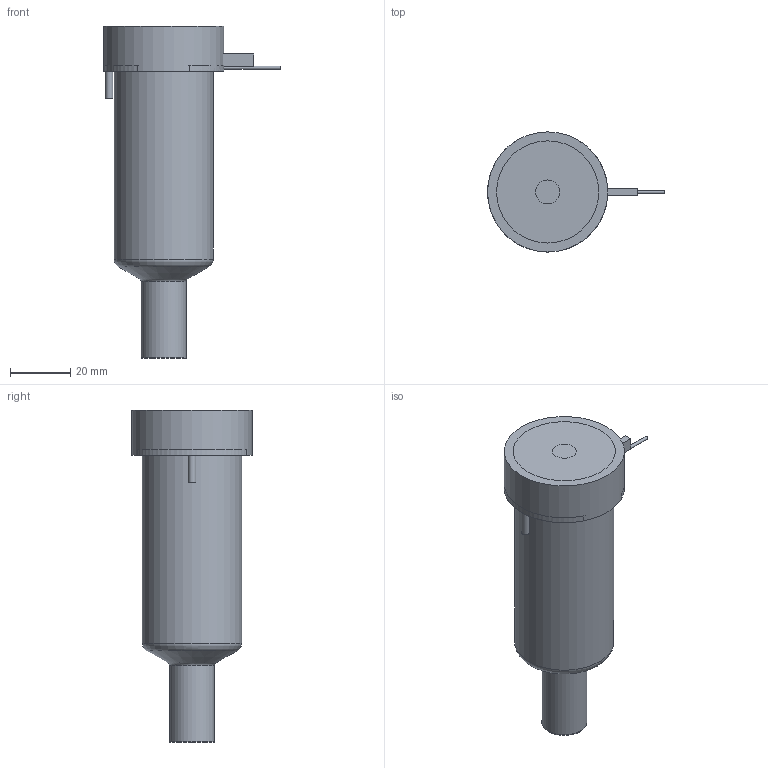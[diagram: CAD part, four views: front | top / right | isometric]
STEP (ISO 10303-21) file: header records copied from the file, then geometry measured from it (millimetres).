
FILE_DESCRIPTION(/* description */ (''),/* implementation_level */ '2;1');
FILE_NAME(/* name */ 'BXYCN19075P7U_200C_a',/* time_stamp */ '2016-02-22T15:40:43+13:00',/* author */ (''),/* organization */ (''),/* preprocessor_version */ 'ST-DEVELOPER v9',/* originating_system */ 'UGS - NX 4.0',/* authorisation */ '');
FILE_SCHEMA (('CONFIG_CONTROL_DESIGN'));
Length unit declared in the file: millimetre
Products named in the file (1): MattBE97x0vt
Bounding box: 58.85 x 40 x 110.47 mm (x, y, z)
Volume: 142554.5 mm3; surface area: 25040.5 mm2
Topology: 2 solids, 2 shells, 66 faces, 148 edges, 96 vertices
Faces by surface type: plane 31, cylinder 21, torus 7, cone 5, bspline 1, sphere 1
Full cylindrical faces by diameter (mm): 1 x2, 1.8 x1, 2.5 x1, 7 x1, 8 x1, 14.61 x1, 14.995 x2, 18.3 x1, 28.6 x1, 33 x1, 40 x1
Entity records: 1929 total; most frequent: CARTESIAN_POINT 483, DIRECTION 297, ORIENTED_EDGE 232, AXIS2_PLACEMENT_3D 127, EDGE_CURVE 116, EDGE_LOOP 102, VERTEX_POINT 88, ADVANCED_FACE 66
